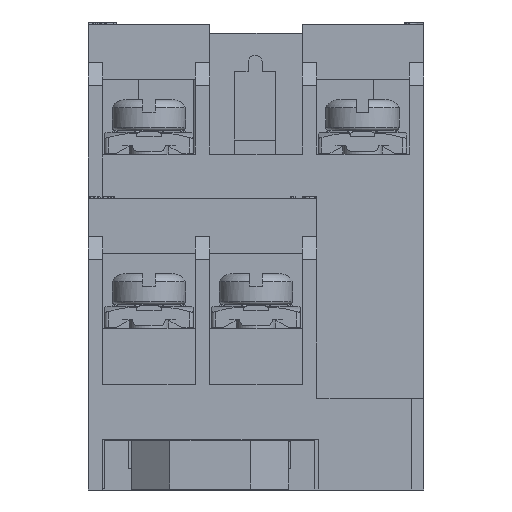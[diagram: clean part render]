
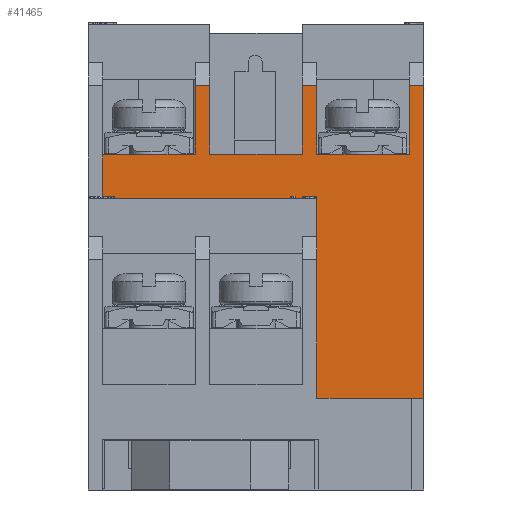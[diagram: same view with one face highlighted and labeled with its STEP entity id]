
A CAD part, front view. The second image highlights one B-rep face of the part: STEP entity #41465.
In plain terms, the highlighted planar face has unit normal (0, -1, 0).
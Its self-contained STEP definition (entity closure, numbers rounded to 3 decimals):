
#145 = CARTESIAN_POINT ( 'NONE',  ( -3.937, -24.903, 22. ) ) ;
#696 = CARTESIAN_POINT ( 'NONE',  ( -3.937, -24.903, 19.1 ) ) ;
#4311 = CARTESIAN_POINT ( 'NONE',  ( 10.088, -24.903, 19.1 ) ) ;
#5201 = DIRECTION ( 'NONE',  ( 0., 0., 1. ) ) ;
#5212 = LINE ( 'NONE', #31562, #34865 ) ;
#6106 = VECTOR ( 'NONE', #5201, 1000. ) ;
#6263 = DIRECTION ( 'NONE',  ( -1., 0., 0. ) ) ;
#6930 = VERTEX_POINT ( 'NONE', #50065 ) ;
#7114 = LINE ( 'NONE', #26869, #13612 ) ;
#7679 = CARTESIAN_POINT ( 'NONE',  ( 16.138, -24.903, 22. ) ) ;
#9541 = ORIENTED_EDGE ( 'NONE', *, *, #13657, .T. ) ;
#9940 = ORIENTED_EDGE ( 'NONE', *, *, #72803, .F. ) ;
#10442 = CARTESIAN_POINT ( 'NONE',  ( 3.076, -24.903, 22. ) ) ;
#12164 = CARTESIAN_POINT ( 'NONE',  ( 2.113, -24.903, 26.5 ) ) ;
#12725 = CARTESIAN_POINT ( 'NONE',  ( 2.113, -24.903, 22. ) ) ;
#12796 = EDGE_CURVE ( 'NONE', #55746, #65255, #67725, .T. ) ;
#13537 = DIRECTION ( 'NONE',  ( 0., 1., 0. ) ) ;
#13612 = VECTOR ( 'NONE', #73420, 1000. ) ;
#13657 = EDGE_CURVE ( 'NONE', #31420, #33043, #30160, .T. ) ;
#13866 = VERTEX_POINT ( 'NONE', #696 ) ;
#17089 = CARTESIAN_POINT ( 'NONE',  ( 17.101, -24.903, 26.5 ) ) ;
#17341 = EDGE_CURVE ( 'NONE', #83215, #61271, #58935, .T. ) ;
#18720 = CARTESIAN_POINT ( 'NONE',  ( 9.126, -24.903, 26.5 ) ) ;
#19180 = VERTEX_POINT ( 'NONE', #4311 ) ;
#19393 = CARTESIAN_POINT ( 'NONE',  ( 2.113, -24.903, -7.083 ) ) ;
#21429 = ORIENTED_EDGE ( 'NONE', *, *, #51794, .F. ) ;
#23609 = LINE ( 'NONE', #69763, #42668 ) ;
#23644 = VERTEX_POINT ( 'NONE', #54699 ) ;
#24727 = VECTOR ( 'NONE', #63900, 1000. ) ;
#25426 = CARTESIAN_POINT ( 'NONE',  ( 17.101, -24.903, -12.785 ) ) ;
#26678 = EDGE_CURVE ( 'NONE', #6930, #73806, #73268, .T. ) ;
#26729 = DIRECTION ( 'NONE',  ( 1., 0., 0. ) ) ;
#26869 = CARTESIAN_POINT ( 'NONE',  ( 16.138, -24.903, -18.519 ) ) ;
#26988 = VERTEX_POINT ( 'NONE', #27382 ) ;
#27382 = CARTESIAN_POINT ( 'NONE',  ( 16.138, -24.903, 26.5 ) ) ;
#30160 = LINE ( 'NONE', #58245, #85018 ) ;
#31420 = VERTEX_POINT ( 'NONE', #40925 ) ;
#31562 = CARTESIAN_POINT ( 'NONE',  ( 16.138, -24.903, 22. ) ) ;
#33043 = VERTEX_POINT ( 'NONE', #52788 ) ;
#33334 = FACE_OUTER_BOUND ( 'NONE', #37158, .T. ) ;
#33592 = VECTOR ( 'NONE', #41355, 1000. ) ;
#34865 = VECTOR ( 'NONE', #65376, 1000. ) ;
#36627 = EDGE_CURVE ( 'NONE', #19180, #13866, #67544, .T. ) ;
#37000 = ORIENTED_EDGE ( 'NONE', *, *, #26678, .T. ) ;
#37031 = VECTOR ( 'NONE', #71724, 1000. ) ;
#37116 = LINE ( 'NONE', #58629, #24727 ) ;
#37158 = EDGE_LOOP ( 'NONE', ( #9940, #38139, #9541, #64970, #72302, #73180, #38911, #63972, #39418, #68835, #67423, #42042, #21429, #81855, #37000, #50460 ) ) ;
#37238 = DIRECTION ( 'NONE',  ( -1., 0., 0. ) ) ;
#37470 = AXIS2_PLACEMENT_3D ( 'NONE', #25426, #13537, #26729 ) ;
#38052 = CARTESIAN_POINT ( 'NONE',  ( 9.126, -24.903, 22. ) ) ;
#38139 = ORIENTED_EDGE ( 'NONE', *, *, #85447, .T. ) ;
#38246 = EDGE_CURVE ( 'NONE', #6930, #44952, #37116, .T. ) ;
#38911 = ORIENTED_EDGE ( 'NONE', *, *, #49591, .T. ) ;
#39149 = CARTESIAN_POINT ( 'NONE',  ( 17.101, -24.903, 26.5 ) ) ;
#39418 = ORIENTED_EDGE ( 'NONE', *, *, #43543, .F. ) ;
#39485 = VECTOR ( 'NONE', #77162, 1000. ) ;
#39728 = CARTESIAN_POINT ( 'NONE',  ( -3.937, -24.903, 22. ) ) ;
#40345 = CARTESIAN_POINT ( 'NONE',  ( -3.949, -24.903, 19.1 ) ) ;
#40916 = LINE ( 'NONE', #54967, #33592 ) ;
#40925 = CARTESIAN_POINT ( 'NONE',  ( 10.088, -24.903, 22. ) ) ;
#41355 = DIRECTION ( 'NONE',  ( 0., 0., 1. ) ) ;
#41465 = ADVANCED_FACE ( 'NONE', ( #33334 ), #60116, .F. ) ;
#42042 = ORIENTED_EDGE ( 'NONE', *, *, #36627, .F. ) ;
#42668 = VECTOR ( 'NONE', #37238, 1000. ) ;
#42998 = CARTESIAN_POINT ( 'NONE',  ( 3.126, -24.903, 22. ) ) ;
#43543 = EDGE_CURVE ( 'NONE', #55746, #61271, #60660, .T. ) ;
#44463 = DIRECTION ( 'NONE',  ( -1., 0., 0. ) ) ;
#44952 = VERTEX_POINT ( 'NONE', #64880 ) ;
#45021 = EDGE_CURVE ( 'NONE', #33043, #69934, #23609, .T. ) ;
#45177 = LINE ( 'NONE', #65366, #6106 ) ;
#48471 = VECTOR ( 'NONE', #52682, 1000. ) ;
#49569 = LINE ( 'NONE', #42998, #39485 ) ;
#49591 = EDGE_CURVE ( 'NONE', #23644, #83215, #70596, .T. ) ;
#50065 = CARTESIAN_POINT ( 'NONE',  ( 17.101, -24.903, 6. ) ) ;
#50117 = DIRECTION ( 'NONE',  ( -1., 0., 0. ) ) ;
#50460 = ORIENTED_EDGE ( 'NONE', *, *, #74814, .T. ) ;
#51618 = VECTOR ( 'NONE', #44463, 1000. ) ;
#51794 = EDGE_CURVE ( 'NONE', #44952, #19180, #40916, .T. ) ;
#52443 = CARTESIAN_POINT ( 'NONE',  ( -3.937, -24.903, 28.132 ) ) ;
#52682 = DIRECTION ( 'NONE',  ( -1., 0., 0. ) ) ;
#52699 = CARTESIAN_POINT ( 'NONE',  ( 17.101, -24.903, -12.785 ) ) ;
#52788 = CARTESIAN_POINT ( 'NONE',  ( 10.088, -24.903, 26.5 ) ) ;
#54531 = VECTOR ( 'NONE', #50117, 1000. ) ;
#54699 = CARTESIAN_POINT ( 'NONE',  ( 3.076, -24.903, 22. ) ) ;
#54967 = CARTESIAN_POINT ( 'NONE',  ( 10.088, -24.903, -12.785 ) ) ;
#55746 = VERTEX_POINT ( 'NONE', #12725 ) ;
#57382 = DIRECTION ( 'NONE',  ( 0., 0., 1. ) ) ;
#57726 = EDGE_CURVE ( 'NONE', #82799, #69934, #45177, .T. ) ;
#58245 = CARTESIAN_POINT ( 'NONE',  ( 10.088, -24.903, -12.785 ) ) ;
#58313 = EDGE_CURVE ( 'NONE', #65255, #13866, #65600, .T. ) ;
#58629 = CARTESIAN_POINT ( 'NONE',  ( 17.101, -24.903, 6. ) ) ;
#58935 = LINE ( 'NONE', #39149, #51618 ) ;
#59456 = CARTESIAN_POINT ( 'NONE',  ( 3.076, -24.903, 26.5 ) ) ;
#60110 = DIRECTION ( 'NONE',  ( 0., 0., 1. ) ) ;
#60116 = PLANE ( 'NONE',  #37470 ) ;
#60660 = LINE ( 'NONE', #19393, #66334 ) ;
#61053 = EDGE_CURVE ( 'NONE', #23644, #82799, #49569, .T. ) ;
#61271 = VERTEX_POINT ( 'NONE', #12164 ) ;
#61882 = DIRECTION ( 'NONE',  ( 0., 0., 1. ) ) ;
#62416 = LINE ( 'NONE', #17089, #54531 ) ;
#63048 = VECTOR ( 'NONE', #60110, 1000. ) ;
#63900 = DIRECTION ( 'NONE',  ( -1., 0., 0. ) ) ;
#63972 = ORIENTED_EDGE ( 'NONE', *, *, #17341, .T. ) ;
#64880 = CARTESIAN_POINT ( 'NONE',  ( 10.088, -24.903, 6. ) ) ;
#64970 = ORIENTED_EDGE ( 'NONE', *, *, #45021, .T. ) ;
#65255 = VERTEX_POINT ( 'NONE', #39728 ) ;
#65366 = CARTESIAN_POINT ( 'NONE',  ( 9.126, -24.903, 22. ) ) ;
#65376 = DIRECTION ( 'NONE',  ( -1., 0., 0. ) ) ;
#65600 = LINE ( 'NONE', #52443, #37031 ) ;
#66334 = VECTOR ( 'NONE', #67270, 1000. ) ;
#67270 = DIRECTION ( 'NONE',  ( 0., 0., 1. ) ) ;
#67423 = ORIENTED_EDGE ( 'NONE', *, *, #58313, .T. ) ;
#67544 = LINE ( 'NONE', #40345, #48471 ) ;
#67725 = LINE ( 'NONE', #145, #79404 ) ;
#68835 = ORIENTED_EDGE ( 'NONE', *, *, #12796, .T. ) ;
#69763 = CARTESIAN_POINT ( 'NONE',  ( 17.101, -24.903, 26.5 ) ) ;
#69934 = VERTEX_POINT ( 'NONE', #18720 ) ;
#70596 = LINE ( 'NONE', #10442, #84799 ) ;
#71724 = DIRECTION ( 'NONE',  ( 0., 0., -1. ) ) ;
#71976 = CARTESIAN_POINT ( 'NONE',  ( 17.101, -24.903, 26.5 ) ) ;
#72302 = ORIENTED_EDGE ( 'NONE', *, *, #57726, .F. ) ;
#72803 = EDGE_CURVE ( 'NONE', #85048, #26988, #7114, .T. ) ;
#73180 = ORIENTED_EDGE ( 'NONE', *, *, #61053, .F. ) ;
#73268 = LINE ( 'NONE', #52699, #63048 ) ;
#73420 = DIRECTION ( 'NONE',  ( 0., 0., 1. ) ) ;
#73806 = VERTEX_POINT ( 'NONE', #71976 ) ;
#74814 = EDGE_CURVE ( 'NONE', #73806, #26988, #62416, .T. ) ;
#77162 = DIRECTION ( 'NONE',  ( 1., 0., 0. ) ) ;
#79404 = VECTOR ( 'NONE', #6263, 1000. ) ;
#81855 = ORIENTED_EDGE ( 'NONE', *, *, #38246, .F. ) ;
#82799 = VERTEX_POINT ( 'NONE', #38052 ) ;
#83215 = VERTEX_POINT ( 'NONE', #59456 ) ;
#84799 = VECTOR ( 'NONE', #61882, 1000. ) ;
#85018 = VECTOR ( 'NONE', #57382, 1000. ) ;
#85048 = VERTEX_POINT ( 'NONE', #7679 ) ;
#85447 = EDGE_CURVE ( 'NONE', #85048, #31420, #5212, .T. ) ;
